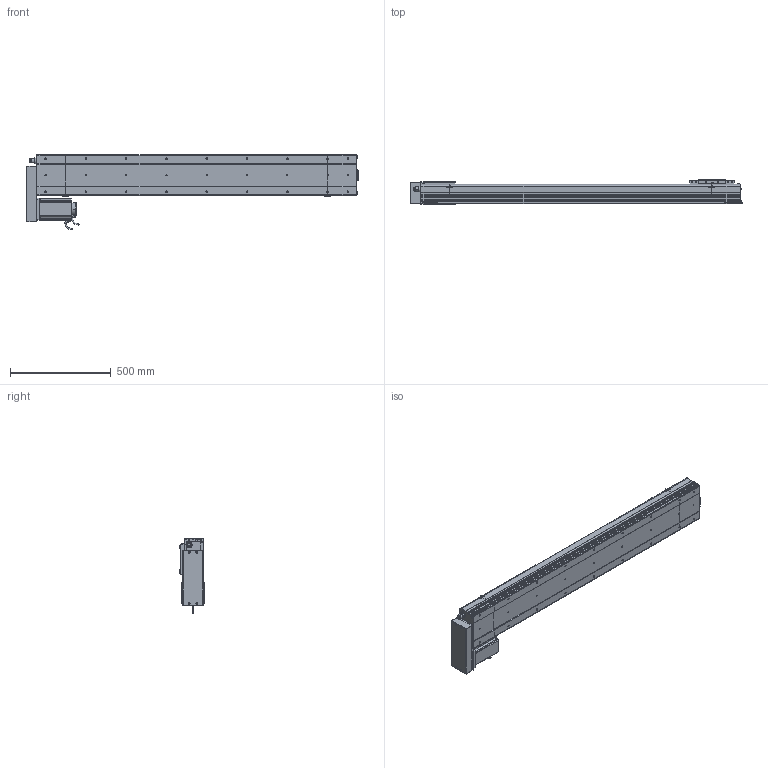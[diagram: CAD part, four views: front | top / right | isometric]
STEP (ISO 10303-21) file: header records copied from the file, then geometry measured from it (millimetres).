
FILE_DESCRIPTION (( 'STEP AP214' ), '1' );
FILE_NAME ('D20 CSH BR S1300.STEP', '2010-06-30T08:22:26', ( 'Conseil Régional Haute-Normandie' ), ( 'Conseil Régional Haute-Normandie' ), 'SwSTEP 2.0', 'SolidWorks 2010', '' );
FILE_SCHEMA (( 'AUTOMOTIVE_DESIGN' ));
Length unit declared in the file: millimetre
Products named in the file (31): Plaque de Bout Tail D20_Default; Plaque De Serrage D20_Default; vis M5 L47_Default; ecrou_Default; vis M5 L30_Default; clavette; Conecteur_Default; Conecteur2_Default; codeur 110BLDC170A-630x; Corp D20 S1300_Default; corps 110BLDC170A-630x; avant 110BLDC170A-630x; vis M5 L15_Default; Corp S1300_Default; Moteur motionking 110BLDC170A-640x; Plaque De Serrage Head BR D20_Default; Chariot D20_Default; Couvercle S1300_Default; Couvercle Head BR_Default; Support Chariot D20_Default; Corp Head BR D20_Default; Glissiere_Default; Head D20 BR_Default; Support moteur BR D20_Default; Plaque de Bout Head BR D20_Default; Cache Moteur BR D20_Default; D20 CSH BR S1300; Couvercle_Default; Corp Tail D20+100_Default; Tail D20+100_Default
Assembly tree (60 placements, depth 4):
  D20 CSH BR S1300
    Chariot D20_Default
      vis M5 L15_Default  x8
      Chariot D20_Default
      Support Chariot D20_Default
      Glissiere_Default
    Corp D20 S1300_Default
      Couvercle S1300_Default
      Corp S1300_Default
    Tail D20+100_Default
      Plaque de Bout Tail D20_Default
      Corp Tail D20+100_Default
      Couvercle_Default
      vis M5 L15_Default  x6
      Plaque De Serrage D20_Default
    Head D20 BR_Default
      Corp Head BR D20_Default
      vis M5 L15_Default  x8
      Plaque De Serrage Head BR D20_Default
      vis M5 L47_Default  x4
      ecrou_Default  x4
      Moteur motionking 110BLDC170A-640x
        Conecteur_Default
        codeur 110BLDC170A-630x
        clavette
        Conecteur2_Default
        corps 110BLDC170A-630x
        avant 110BLDC170A-630x
      Cache Moteur BR D20_Default
      vis M5 L30_Default  x4
      Support moteur BR D20_Default
      Couvercle Head BR_Default
      Plaque de Bout Head BR D20_Default
Bounding box: 1647.7 x 120 x 372 mm (x, y, z)
Volume: 13071440.3 mm3; surface area: 2471809.6 mm2
Topology: 97 solids, 97 shells, 3586 faces, 9005 edges, 5865 vertices
Faces by surface type: plane 2015, bspline 806, cylinder 619, torus 83, cone 63
Entity records: 157409 total; most frequent: CARTESIAN_POINT 81960, ORIENTED_EDGE 14958, DIRECTION 11223, EDGE_CURVE 7479, VERTEX_POINT 4953, LINE 4895, VECTOR 4895, EDGE_LOOP 3192
